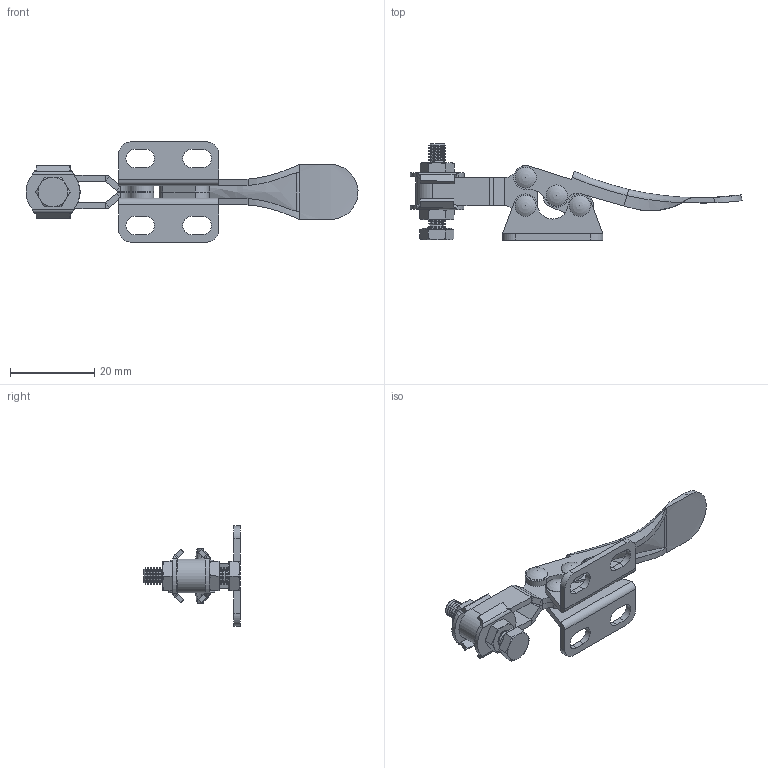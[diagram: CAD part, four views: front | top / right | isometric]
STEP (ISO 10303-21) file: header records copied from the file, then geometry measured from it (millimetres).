
FILE_DESCRIPTION (( 'STEP AP214' ), '1' );
FILE_NAME ('ISK-HH2500.STEP', '2015-06-30T07:01:56', ( '' ), ( '' ), 'SwSTEP 2.0', 'SolidWorks 2015', '' );
FILE_SCHEMA (( 'AUTOMOTIVE_DESIGN' ));
Length unit declared in the file: millimetre
Products named in the file (9): Revet_兂3亊6; continuous thread hexagon head bolt_a_jis_JIS B 1180 Continuous thread hexagon head bolt A M4 x 20 --S; hexagon nut_3_jis_JIS B 1181 Hexagon nut - Class 3 Finished M4 --N; Washer_D4-8; Handle; Link; Arm; Base; ISK-HH2500
Assembly tree (14 placements, depth 2):
  ISK-HH2500
    Base
    Arm
    Link  x2
    Handle
    Washer_D4-8  x2
    hexagon nut_3_jis_JIS B 1181 Hexagon nut - Class 3 Finished M4 --N  x2
    continuous thread hexagon head bolt_a_jis_JIS B 1180 Continuous thread hexagon head bolt A M4 x 20 --S
    Revet_兂3亊6  x4
Bounding box: 78.72 x 22.88 x 23.8 mm (x, y, z)
Volume: 3595 mm3; surface area: 6690 mm2
Topology: 15 solids, 15 shells, 541 faces, 1306 edges, 800 vertices
Faces by surface type: cylinder 197, plane 152, cone 152, torus 20, bspline 16, sphere 4
Entity records: 14243 total; most frequent: CARTESIAN_POINT 3200, DIRECTION 2395, ORIENTED_EDGE 2158, EDGE_CURVE 1079, AXIS2_PLACEMENT_3D 961, VERTEX_POINT 662, CIRCLE 518, EDGE_LOOP 481
